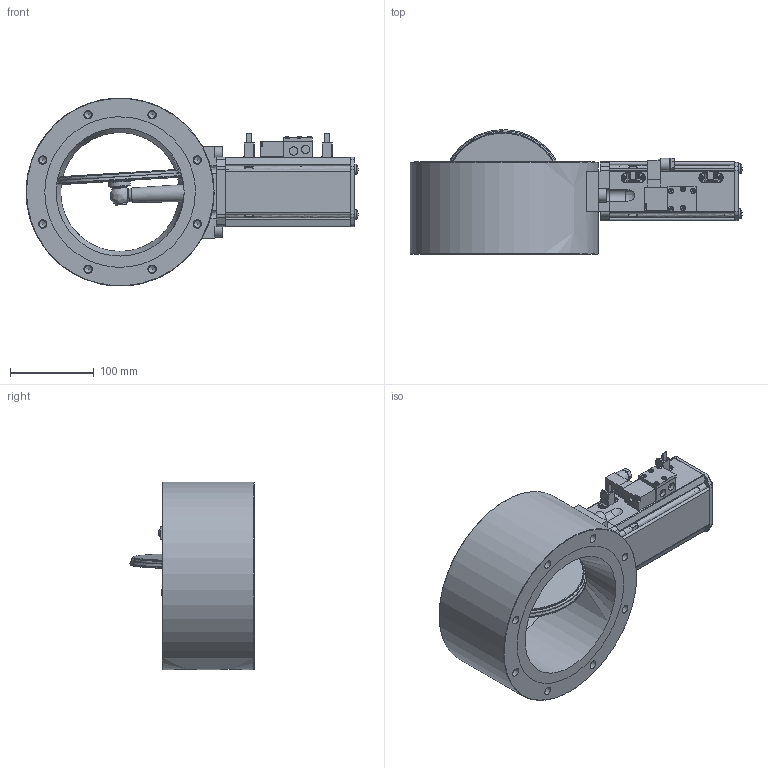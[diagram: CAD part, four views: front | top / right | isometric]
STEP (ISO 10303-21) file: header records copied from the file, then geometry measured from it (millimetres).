
FILE_DESCRIPTION((''),'2;1');
FILE_NAME('O:\MT\MT\Systeme\Cad\Datenexporte\www_vat_ch\235381.stp','2004-06-18T12:51:47',('User'),('SDRC'),'I-DEAS Master Series 9','UNIX','Yes');
FILE_SCHEMA(('CONFIG_CONTROL_DESIGN'));
Length unit declared in the file: millimetre
Assembly tree (52 placements, depth 0):
Bounding box: 396.97 x 148.51 x 224.6 mm (x, y, z)
Volume: 3058282.7 mm3; surface area: 454371.9 mm2
Topology: 63 solids, 63 shells, 1580 faces, 3793 edges, 2470 vertices
Faces by surface type: bspline 1580
Entity records: 36797 total; most frequent: CARTESIAN_POINT 17303, ORIENTED_EDGE 4710, EDGE_CURVE 2355, VERTEX_POINT 1552, EDGE_LOOP 1241, QUASI_UNIFORM_CURVE 1021, FACE_OUTER_BOUND 1002, ADVANCED_FACE 1002
